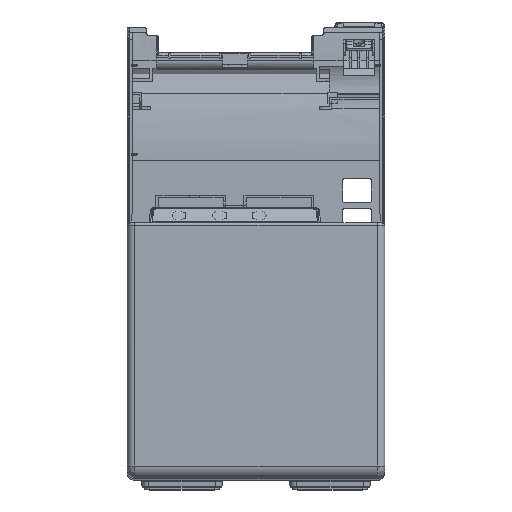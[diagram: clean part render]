
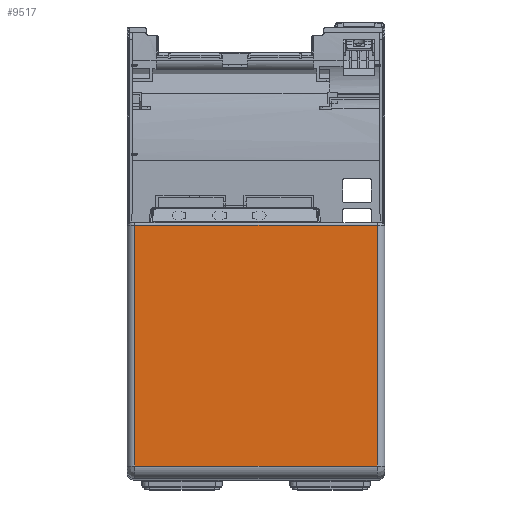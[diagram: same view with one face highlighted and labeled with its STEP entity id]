
A CAD part, top view. The second image highlights one B-rep face of the part: STEP entity #9517.
In plain terms, the highlighted planar face has unit normal (0, 0, 1).
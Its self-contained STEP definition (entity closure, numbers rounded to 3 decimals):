
#280=CARTESIAN_POINT('',(27.,18.415,23.5));
#1994=DIRECTION('',(0.,-1.,0.));
#1995=VECTOR('',#1994,95.371);
#1996=CARTESIAN_POINT('',(27.,18.415,23.5));
#1997=LINE('',#1996,#1995);
#1998=DIRECTION('',(1.,0.,0.));
#1999=VECTOR('',#1998,96.);
#2000=CARTESIAN_POINT('',(-69.,-76.956,23.5));
#2001=LINE('',#2000,#1999);
#2002=DIRECTION('',(0.,1.,0.));
#2003=VECTOR('',#2002,95.371);
#2004=CARTESIAN_POINT('',(-69.,-76.956,23.5));
#2005=LINE('',#2004,#2003);
#2006=DIRECTION('',(-1.,0.,0.));
#2007=VECTOR('',#2006,96.);
#2008=CARTESIAN_POINT('',(27.,18.415,23.5));
#2009=LINE('',#2008,#2007);
#6288=CARTESIAN_POINT('',(27.,-76.956,23.5));
#6290=VERTEX_POINT('',#6288);
#6292=CARTESIAN_POINT('',(-69.,-76.956,23.5));
#6294=VERTEX_POINT('',#6292);
#6310=VERTEX_POINT('',#280);
#6311=CARTESIAN_POINT('',(-69.,18.415,23.5));
#6312=VERTEX_POINT('',#6311);
#9504=CARTESIAN_POINT('',(-72.,19.5,23.5));
#9505=DIRECTION('',(0.,0.,1.));
#9506=DIRECTION('',(0.,-1.,0.));
#9507=AXIS2_PLACEMENT_3D('',#9504,#9505,#9506);
#9508=PLANE('',#9507);
#9509=ORIENTED_EDGE('',*,*,#7625,.T.);
#9511=ORIENTED_EDGE('',*,*,#9510,.F.);
#9513=ORIENTED_EDGE('',*,*,#9512,.T.);
#9514=ORIENTED_EDGE('',*,*,#9491,.F.);
#9515=EDGE_LOOP('',(#9509,#9511,#9513,#9514));
#9516=FACE_OUTER_BOUND('',#9515,.F.);
#7625=EDGE_CURVE('',#6310,#6290,#1997,.T.);
#9491=EDGE_CURVE('',#6310,#6312,#2009,.T.);
#9510=EDGE_CURVE('',#6294,#6290,#2001,.T.);
#9512=EDGE_CURVE('',#6294,#6312,#2005,.T.);
#9517=ADVANCED_FACE('',(#9516),#9508,.T.);
